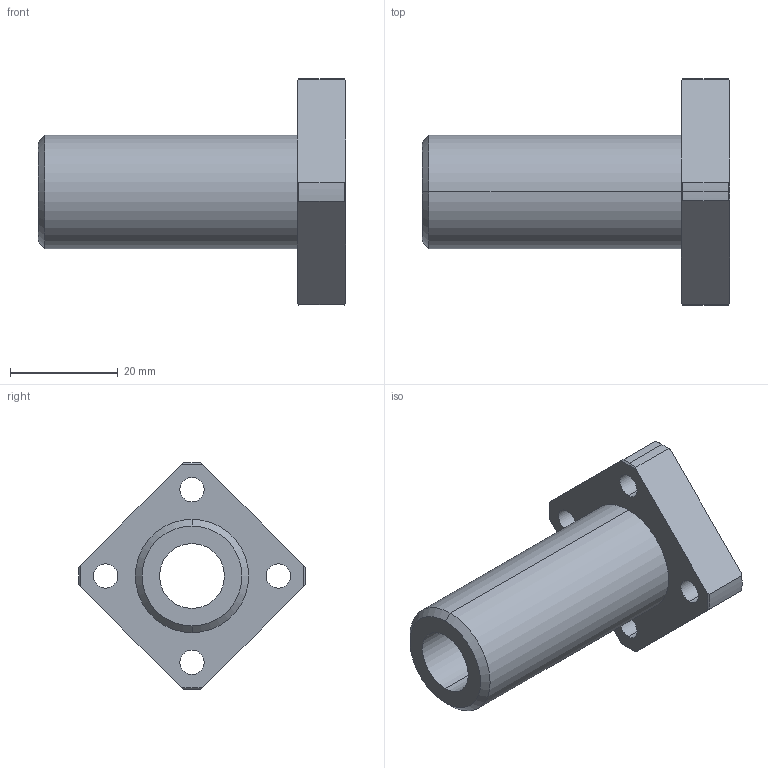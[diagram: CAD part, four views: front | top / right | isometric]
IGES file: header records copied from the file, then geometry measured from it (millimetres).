
Start section: 3D InterOp IGES (Version 21 0 1), Spatial Corp. Copyright (c) 1999-2007.
Global section: file name: DFPJ12.igs; native system: Spatial Corp.; preprocessor: 3D InterOp GENERIC/IGES 3.0; author: Noname; organization: Noname; date: 20220324.140541; units: millimetre
Bounding box: 57 x 41.98 x 42 mm (x, y, z)
Surface area: 8702.9 mm2 (no closed solid volume)
Topology: 0 solids, 0 shells, 48 faces, 240 edges, 240 vertices
Faces by surface type: revolution 37, extrusion 11
